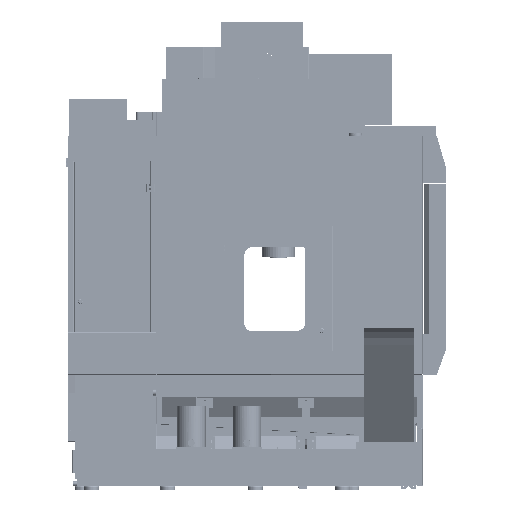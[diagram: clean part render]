
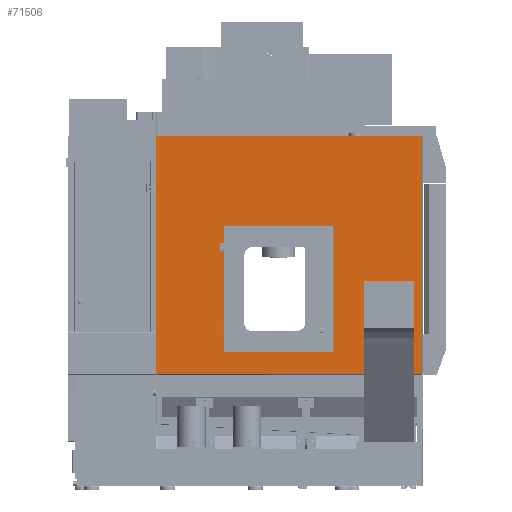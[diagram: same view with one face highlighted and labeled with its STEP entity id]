
A CAD part, left-side view. The second image highlights one B-rep face of the part: STEP entity #71506.
In plain terms, the highlighted planar face has unit normal (-1, 0, 0).
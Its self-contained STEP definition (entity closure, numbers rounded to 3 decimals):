
#13641=FACE_BOUND('',#122132,.T.);
#13642=FACE_BOUND('',#122133,.T.);
#13643=FACE_BOUND('',#122134,.T.);
#13644=FACE_BOUND('',#122135,.T.);
#25290=CIRCLE('',#401392,3.2);
#25292=CIRCLE('',#401395,3.2);
#71506=ADVANCED_FACE('',(#13641,#13642,#13643,#13644),#87910,.T.);
#87910=PLANE('',#401416);
#122132=EDGE_LOOP('',(#180838));
#122133=EDGE_LOOP('',(#180839));
#122134=EDGE_LOOP('',(#180840,#180841,#180842,#180843,#180844,#180845,#180846,
#180847,#180848,#180849));
#122135=EDGE_LOOP('',(#180850,#180851,#180852,#180853,#180854));
#180838=ORIENTED_EDGE('',*,*,#290036,.F.);
#180839=ORIENTED_EDGE('',*,*,#290034,.F.);
#180840=ORIENTED_EDGE('',*,*,#273085,.T.);
#180841=ORIENTED_EDGE('',*,*,#273088,.T.);
#180842=ORIENTED_EDGE('',*,*,#273106,.F.);
#180843=ORIENTED_EDGE('',*,*,#273111,.T.);
#180844=ORIENTED_EDGE('',*,*,#273100,.T.);
#180845=ORIENTED_EDGE('',*,*,#289846,.F.);
#180846=ORIENTED_EDGE('',*,*,#289843,.F.);
#180847=ORIENTED_EDGE('',*,*,#289840,.F.);
#180848=ORIENTED_EDGE('',*,*,#289837,.F.);
#180849=ORIENTED_EDGE('',*,*,#289848,.F.);
#180850=ORIENTED_EDGE('',*,*,#289950,.T.);
#180851=ORIENTED_EDGE('',*,*,#289828,.T.);
#180852=ORIENTED_EDGE('',*,*,#290011,.T.);
#180853=ORIENTED_EDGE('',*,*,#289947,.T.);
#180854=ORIENTED_EDGE('',*,*,#289941,.T.);
#238904=VERTEX_POINT('',#535049);
#238905=VERTEX_POINT('',#535051);
#238906=VERTEX_POINT('',#535055);
#238917=VERTEX_POINT('',#535081);
#238918=VERTEX_POINT('',#535083);
#238921=VERTEX_POINT('',#535093);
#249923=VERTEX_POINT('',#577348);
#249924=VERTEX_POINT('',#577380);
#249930=VERTEX_POINT('',#577424);
#249931=VERTEX_POINT('',#577426);
#249933=VERTEX_POINT('',#577432);
#249935=VERTEX_POINT('',#577438);
#249991=VERTEX_POINT('',#577623);
#249998=VERTEX_POINT('',#577835);
#249999=VERTEX_POINT('',#577836);
#250044=VERTEX_POINT('',#578020);
#250046=VERTEX_POINT('',#578025);
#273085=EDGE_CURVE('',#238905,#238904,#320776,.T.);
#273088=EDGE_CURVE('',#238904,#238906,#320779,.T.);
#273100=EDGE_CURVE('',#238918,#238917,#320790,.T.);
#273106=EDGE_CURVE('',#238921,#238906,#320796,.T.);
#273111=EDGE_CURVE('',#238921,#238918,#320799,.T.);
#289828=EDGE_CURVE('',#249924,#249923,#332758,.T.);
#289837=EDGE_CURVE('',#249930,#249931,#332765,.T.);
#289840=EDGE_CURVE('',#249931,#249933,#332768,.T.);
#289843=EDGE_CURVE('',#249933,#249935,#332771,.T.);
#289846=EDGE_CURVE('',#249935,#238917,#332774,.T.);
#289848=EDGE_CURVE('',#238905,#249930,#332776,.T.);
#289941=EDGE_CURVE('',#249998,#249999,#332843,.T.);
#289947=EDGE_CURVE('',#249991,#249998,#332848,.T.);
#289950=EDGE_CURVE('',#249999,#249924,#332850,.T.);
#290011=EDGE_CURVE('',#249923,#249991,#332892,.T.);
#290034=EDGE_CURVE('',#250044,#250044,#25290,.T.);
#290036=EDGE_CURVE('',#250046,#250046,#25292,.T.);
#320776=LINE('',#535050,#355832);
#320779=LINE('',#535057,#355835);
#320790=LINE('',#535082,#355846);
#320796=LINE('',#535092,#355852);
#320799=LINE('',#535102,#355855);
#332758=LINE('',#577379,#367814);
#332765=LINE('',#577425,#367821);
#332768=LINE('',#577431,#367824);
#332771=LINE('',#577437,#367827);
#332774=LINE('',#577443,#367830);
#332776=LINE('',#577445,#367832);
#332843=LINE('',#577834,#367899);
#332848=LINE('',#577845,#367904);
#332850=LINE('',#577849,#367906);
#332892=LINE('',#577966,#367948);
#355832=VECTOR('',#430707,1.);
#355835=VECTOR('',#430712,1.);
#355846=VECTOR('',#430731,1.);
#355852=VECTOR('',#430739,1.);
#355855=VECTOR('',#430750,1.);
#367814=VECTOR('',#463883,1.);
#367821=VECTOR('',#463898,1.);
#367824=VECTOR('',#463903,1.);
#367827=VECTOR('',#463908,1.);
#367830=VECTOR('',#463913,1.);
#367832=VECTOR('',#463915,1.);
#367899=VECTOR('',#464072,1.);
#367904=VECTOR('',#464081,1.);
#367906=VECTOR('',#464087,1.);
#367948=VECTOR('',#464203,1.);
#401392=AXIS2_PLACEMENT_3D('',#578019,#464282,#464283);
#401395=AXIS2_PLACEMENT_3D('',#578024,#464288,#464289);
#401416=AXIS2_PLACEMENT_3D('',#578050,#464333,#464334);
#430707=DIRECTION('',(0.,1.,0.));
#430712=DIRECTION('',(0.,0.,-1.));
#430731=DIRECTION('',(0.,-1.,0.));
#430739=DIRECTION('',(0.,-1.,0.));
#430750=DIRECTION('',(0.,0.,1.));
#463883=DIRECTION('',(0.,-1.,0.));
#463898=DIRECTION('',(0.,-1.,0.));
#463903=DIRECTION('',(0.,0.,1.));
#463908=DIRECTION('',(0.,1.,0.));
#463913=DIRECTION('',(0.,0.,-1.));
#463915=DIRECTION('',(0.,0.,-1.));
#464072=DIRECTION('',(0.,1.,0.));
#464081=DIRECTION('',(0.,0.,1.));
#464087=DIRECTION('',(0.,0.,-1.));
#464203=DIRECTION('',(0.,-1.,0.));
#464282=DIRECTION('',(-1.,0.,0.));
#464283=DIRECTION('',(0.,-1.,0.));
#464288=DIRECTION('',(-1.,0.,0.));
#464289=DIRECTION('',(0.,1.,0.));
#464333=DIRECTION('',(-1.,0.,0.));
#464334=DIRECTION('',(0.,-1.,0.));
#535049=CARTESIAN_POINT('',(-1238.695,774.576,1183.325));
#535050=CARTESIAN_POINT('',(-1238.695,768.055,1183.325));
#535051=CARTESIAN_POINT('',(-1238.695,769.305,1183.325));
#535055=CARTESIAN_POINT('',(-1238.695,774.576,1170.825));
#535057=CARTESIAN_POINT('',(-1238.695,774.576,1170.825));
#535081=CARTESIAN_POINT('',(-1238.695,769.305,1220.825));
#535082=CARTESIAN_POINT('',(-1238.695,768.055,1220.825));
#535083=CARTESIAN_POINT('',(-1238.695,793.055,1220.825));
#535092=CARTESIAN_POINT('',(-1238.695,768.055,1170.825));
#535093=CARTESIAN_POINT('',(-1238.695,793.055,1170.825));
#535102=CARTESIAN_POINT('',(-1238.695,793.055,1170.825));
#577348=CARTESIAN_POINT('',(-1238.695,1167.305,441.925));
#577379=CARTESIAN_POINT('',(-1238.695,1169.305,441.925));
#577380=CARTESIAN_POINT('',(-1238.695,1169.305,441.925));
#577424=CARTESIAN_POINT('',(-1238.695,769.305,572.825));
#577425=CARTESIAN_POINT('',(-1238.695,769.305,572.825));
#577426=CARTESIAN_POINT('',(-1238.695,119.305,572.825));
#577431=CARTESIAN_POINT('',(-1238.695,119.305,1322.825));
#577432=CARTESIAN_POINT('',(-1238.695,119.305,1322.825));
#577437=CARTESIAN_POINT('',(-1238.695,769.305,1322.825));
#577438=CARTESIAN_POINT('',(-1238.695,769.305,1322.825));
#577443=CARTESIAN_POINT('',(-1238.695,769.305,1322.825));
#577445=CARTESIAN_POINT('',(-1238.695,769.305,1322.825));
#577623=CARTESIAN_POINT('',(-1238.695,-408.595,441.925));
#577834=CARTESIAN_POINT('',(-1238.695,1169.305,1854.825));
#577835=CARTESIAN_POINT('',(-1238.695,-408.595,1854.825));
#577836=CARTESIAN_POINT('',(-1238.695,1169.305,1854.825));
#577845=CARTESIAN_POINT('',(-1238.695,-408.595,439.825));
#577849=CARTESIAN_POINT('',(-1238.695,1169.305,1854.825));
#577966=CARTESIAN_POINT('',(-1238.695,1169.305,441.925));
#578019=CARTESIAN_POINT('',(-1238.695,783.055,720.825));
#578020=CARTESIAN_POINT('',(-1238.695,779.855,720.825));
#578024=CARTESIAN_POINT('',(-1238.695,783.055,690.825));
#578025=CARTESIAN_POINT('',(-1238.695,786.255,690.825));
#578050=CARTESIAN_POINT('',(-1238.695,379.305,1147.325));
